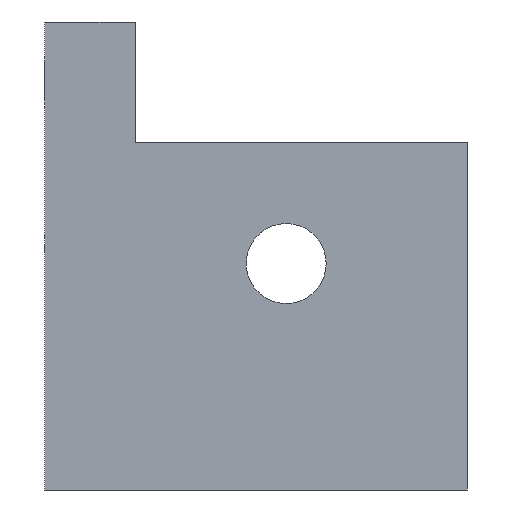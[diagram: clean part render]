
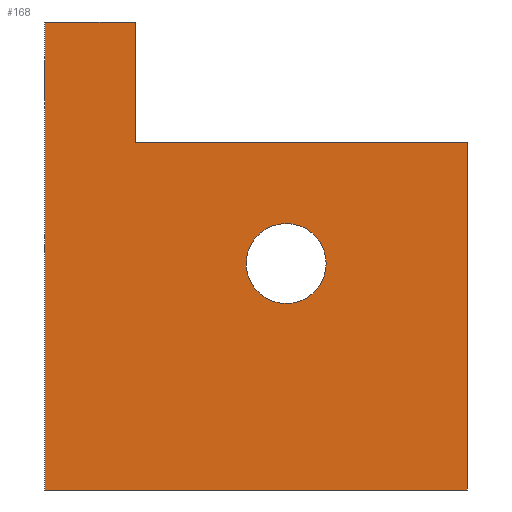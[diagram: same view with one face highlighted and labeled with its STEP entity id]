
A CAD part, front view. The second image highlights one B-rep face of the part: STEP entity #168.
In plain terms, the highlighted planar face has unit normal (0, -1, 0).
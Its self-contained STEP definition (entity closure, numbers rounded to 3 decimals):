
#21 = EDGE_CURVE('',#22,#24,#26,.T.);
#22 = VERTEX_POINT('',#23);
#23 = CARTESIAN_POINT('',(0.,0.,0.));
#24 = VERTEX_POINT('',#25);
#25 = CARTESIAN_POINT('',(0.,0.,31.));
#26 = SURFACE_CURVE('',#27,(#31,#43),.PCURVE_S1.);
#27 = LINE('',#28,#29);
#28 = CARTESIAN_POINT('',(0.,0.,0.));
#29 = VECTOR('',#30,1.);
#30 = DIRECTION('',(0.,0.,1.));
#31 = PCURVE('',#32,#37);
#32 = PLANE('',#33);
#33 = AXIS2_PLACEMENT_3D('',#34,#35,#36);
#34 = CARTESIAN_POINT('',(0.,0.,0.));
#35 = DIRECTION('',(1.,0.,0.));
#36 = DIRECTION('',(0.,0.,1.));
#37 = DEFINITIONAL_REPRESENTATION('',(#38),#42);
#38 = LINE('',#39,#40);
#39 = CARTESIAN_POINT('',(0.,0.));
#40 = VECTOR('',#41,1.);
#41 = DIRECTION('',(1.,0.));
#42 = ( GEOMETRIC_REPRESENTATION_CONTEXT(2) 
PARAMETRIC_REPRESENTATION_CONTEXT() REPRESENTATION_CONTEXT('2D SPACE',''
  ) );
#43 = PCURVE('',#44,#49);
#44 = PLANE('',#45);
#45 = AXIS2_PLACEMENT_3D('',#46,#47,#48);
#46 = CARTESIAN_POINT('',(0.,0.,0.));
#47 = DIRECTION('',(0.,1.,0.));
#48 = DIRECTION('',(0.,0.,1.));
#49 = DEFINITIONAL_REPRESENTATION('',(#50),#54);
#50 = LINE('',#51,#52);
#51 = CARTESIAN_POINT('',(0.,0.));
#52 = VECTOR('',#53,1.);
#53 = DIRECTION('',(1.,0.));
#54 = ( GEOMETRIC_REPRESENTATION_CONTEXT(2) 
PARAMETRIC_REPRESENTATION_CONTEXT() REPRESENTATION_CONTEXT('2D SPACE',''
  ) );
#72 = PLANE('',#73);
#73 = AXIS2_PLACEMENT_3D('',#74,#75,#76);
#74 = CARTESIAN_POINT('',(0.,0.,0.));
#75 = DIRECTION('',(0.,0.,1.));
#76 = DIRECTION('',(1.,0.,0.));
#126 = PLANE('',#127);
#127 = AXIS2_PLACEMENT_3D('',#128,#129,#130);
#128 = CARTESIAN_POINT('',(0.,0.,31.));
#129 = DIRECTION('',(0.,0.,1.));
#130 = DIRECTION('',(1.,0.,0.));
#168 = ADVANCED_FACE('',(#169,#300),#44,.F.);
#169 = FACE_BOUND('',#170,.F.);
#170 = EDGE_LOOP('',(#171,#194,#195,#218,#246,#274));
#171 = ORIENTED_EDGE('',*,*,#172,.F.);
#172 = EDGE_CURVE('',#22,#173,#175,.T.);
#173 = VERTEX_POINT('',#174);
#174 = CARTESIAN_POINT('',(28.,0.,0.));
#175 = SURFACE_CURVE('',#176,(#180,#187),.PCURVE_S1.);
#176 = LINE('',#177,#178);
#177 = CARTESIAN_POINT('',(0.,0.,0.));
#178 = VECTOR('',#179,1.);
#179 = DIRECTION('',(1.,0.,0.));
#180 = PCURVE('',#44,#181);
#181 = DEFINITIONAL_REPRESENTATION('',(#182),#186);
#182 = LINE('',#183,#184);
#183 = CARTESIAN_POINT('',(0.,0.));
#184 = VECTOR('',#185,1.);
#185 = DIRECTION('',(0.,1.));
#186 = ( GEOMETRIC_REPRESENTATION_CONTEXT(2) 
PARAMETRIC_REPRESENTATION_CONTEXT() REPRESENTATION_CONTEXT('2D SPACE',''
  ) );
#187 = PCURVE('',#72,#188);
#188 = DEFINITIONAL_REPRESENTATION('',(#189),#193);
#189 = LINE('',#190,#191);
#190 = CARTESIAN_POINT('',(0.,0.));
#191 = VECTOR('',#192,1.);
#192 = DIRECTION('',(1.,0.));
#193 = ( GEOMETRIC_REPRESENTATION_CONTEXT(2) 
PARAMETRIC_REPRESENTATION_CONTEXT() REPRESENTATION_CONTEXT('2D SPACE',''
  ) );
#194 = ORIENTED_EDGE('',*,*,#21,.T.);
#195 = ORIENTED_EDGE('',*,*,#196,.T.);
#196 = EDGE_CURVE('',#24,#197,#199,.T.);
#197 = VERTEX_POINT('',#198);
#198 = CARTESIAN_POINT('',(6.,0.,31.));
#199 = SURFACE_CURVE('',#200,(#204,#211),.PCURVE_S1.);
#200 = LINE('',#201,#202);
#201 = CARTESIAN_POINT('',(0.,0.,31.));
#202 = VECTOR('',#203,1.);
#203 = DIRECTION('',(1.,0.,0.));
#204 = PCURVE('',#44,#205);
#205 = DEFINITIONAL_REPRESENTATION('',(#206),#210);
#206 = LINE('',#207,#208);
#207 = CARTESIAN_POINT('',(31.,0.));
#208 = VECTOR('',#209,1.);
#209 = DIRECTION('',(0.,1.));
#210 = ( GEOMETRIC_REPRESENTATION_CONTEXT(2) 
PARAMETRIC_REPRESENTATION_CONTEXT() REPRESENTATION_CONTEXT('2D SPACE',''
  ) );
#211 = PCURVE('',#126,#212);
#212 = DEFINITIONAL_REPRESENTATION('',(#213),#217);
#213 = LINE('',#214,#215);
#214 = CARTESIAN_POINT('',(0.,0.));
#215 = VECTOR('',#216,1.);
#216 = DIRECTION('',(1.,0.));
#217 = ( GEOMETRIC_REPRESENTATION_CONTEXT(2) 
PARAMETRIC_REPRESENTATION_CONTEXT() REPRESENTATION_CONTEXT('2D SPACE',''
  ) );
#218 = ORIENTED_EDGE('',*,*,#219,.F.);
#219 = EDGE_CURVE('',#220,#197,#222,.T.);
#220 = VERTEX_POINT('',#221);
#221 = CARTESIAN_POINT('',(6.,0.,23.));
#222 = SURFACE_CURVE('',#223,(#227,#234),.PCURVE_S1.);
#223 = LINE('',#224,#225);
#224 = CARTESIAN_POINT('',(6.,0.,0.));
#225 = VECTOR('',#226,1.);
#226 = DIRECTION('',(0.,0.,1.));
#227 = PCURVE('',#44,#228);
#228 = DEFINITIONAL_REPRESENTATION('',(#229),#233);
#229 = LINE('',#230,#231);
#230 = CARTESIAN_POINT('',(0.,6.));
#231 = VECTOR('',#232,1.);
#232 = DIRECTION('',(1.,0.));
#233 = ( GEOMETRIC_REPRESENTATION_CONTEXT(2) 
PARAMETRIC_REPRESENTATION_CONTEXT() REPRESENTATION_CONTEXT('2D SPACE',''
  ) );
#234 = PCURVE('',#235,#240);
#235 = PLANE('',#236);
#236 = AXIS2_PLACEMENT_3D('',#237,#238,#239);
#237 = CARTESIAN_POINT('',(6.,3.,-1.));
#238 = DIRECTION('',(1.,0.,0.));
#239 = DIRECTION('',(0.,0.,1.));
#240 = DEFINITIONAL_REPRESENTATION('',(#241),#245);
#241 = LINE('',#242,#243);
#242 = CARTESIAN_POINT('',(1.,3.));
#243 = VECTOR('',#244,1.);
#244 = DIRECTION('',(1.,0.));
#245 = ( GEOMETRIC_REPRESENTATION_CONTEXT(2) 
PARAMETRIC_REPRESENTATION_CONTEXT() REPRESENTATION_CONTEXT('2D SPACE',''
  ) );
#246 = ORIENTED_EDGE('',*,*,#247,.T.);
#247 = EDGE_CURVE('',#220,#248,#250,.T.);
#248 = VERTEX_POINT('',#249);
#249 = CARTESIAN_POINT('',(28.,0.,23.));
#250 = SURFACE_CURVE('',#251,(#255,#262),.PCURVE_S1.);
#251 = LINE('',#252,#253);
#252 = CARTESIAN_POINT('',(0.,0.,23.));
#253 = VECTOR('',#254,1.);
#254 = DIRECTION('',(1.,0.,0.));
#255 = PCURVE('',#44,#256);
#256 = DEFINITIONAL_REPRESENTATION('',(#257),#261);
#257 = LINE('',#258,#259);
#258 = CARTESIAN_POINT('',(23.,0.));
#259 = VECTOR('',#260,1.);
#260 = DIRECTION('',(0.,1.));
#261 = ( GEOMETRIC_REPRESENTATION_CONTEXT(2) 
PARAMETRIC_REPRESENTATION_CONTEXT() REPRESENTATION_CONTEXT('2D SPACE',''
  ) );
#262 = PCURVE('',#263,#268);
#263 = PLANE('',#264);
#264 = AXIS2_PLACEMENT_3D('',#265,#266,#267);
#265 = CARTESIAN_POINT('',(0.,0.,23.));
#266 = DIRECTION('',(0.,0.,1.));
#267 = DIRECTION('',(1.,0.,0.));
#268 = DEFINITIONAL_REPRESENTATION('',(#269),#273);
#269 = LINE('',#270,#271);
#270 = CARTESIAN_POINT('',(0.,0.));
#271 = VECTOR('',#272,1.);
#272 = DIRECTION('',(1.,0.));
#273 = ( GEOMETRIC_REPRESENTATION_CONTEXT(2) 
PARAMETRIC_REPRESENTATION_CONTEXT() REPRESENTATION_CONTEXT('2D SPACE',''
  ) );
#274 = ORIENTED_EDGE('',*,*,#275,.F.);
#275 = EDGE_CURVE('',#173,#248,#276,.T.);
#276 = SURFACE_CURVE('',#277,(#281,#288),.PCURVE_S1.);
#277 = LINE('',#278,#279);
#278 = CARTESIAN_POINT('',(28.,0.,0.));
#279 = VECTOR('',#280,1.);
#280 = DIRECTION('',(0.,0.,1.));
#281 = PCURVE('',#44,#282);
#282 = DEFINITIONAL_REPRESENTATION('',(#283),#287);
#283 = LINE('',#284,#285);
#284 = CARTESIAN_POINT('',(0.,28.));
#285 = VECTOR('',#286,1.);
#286 = DIRECTION('',(1.,0.));
#287 = ( GEOMETRIC_REPRESENTATION_CONTEXT(2) 
PARAMETRIC_REPRESENTATION_CONTEXT() REPRESENTATION_CONTEXT('2D SPACE',''
  ) );
#288 = PCURVE('',#289,#294);
#289 = PLANE('',#290);
#290 = AXIS2_PLACEMENT_3D('',#291,#292,#293);
#291 = CARTESIAN_POINT('',(28.,0.,0.));
#292 = DIRECTION('',(1.,0.,0.));
#293 = DIRECTION('',(0.,0.,1.));
#294 = DEFINITIONAL_REPRESENTATION('',(#295),#299);
#295 = LINE('',#296,#297);
#296 = CARTESIAN_POINT('',(0.,0.));
#297 = VECTOR('',#298,1.);
#298 = DIRECTION('',(1.,0.));
#299 = ( GEOMETRIC_REPRESENTATION_CONTEXT(2) 
PARAMETRIC_REPRESENTATION_CONTEXT() REPRESENTATION_CONTEXT('2D SPACE',''
  ) );
#300 = FACE_BOUND('',#301,.F.);
#301 = EDGE_LOOP('',(#302));
#302 = ORIENTED_EDGE('',*,*,#303,.F.);
#303 = EDGE_CURVE('',#304,#304,#306,.T.);
#304 = VERTEX_POINT('',#305);
#305 = CARTESIAN_POINT('',(16.,0.,17.65));
#306 = SURFACE_CURVE('',#307,(#312,#319),.PCURVE_S1.);
#307 = CIRCLE('',#308,2.65);
#308 = AXIS2_PLACEMENT_3D('',#309,#310,#311);
#309 = CARTESIAN_POINT('',(16.,0.,15.));
#310 = DIRECTION('',(0.,1.,0.));
#311 = DIRECTION('',(0.,-0.,1.));
#312 = PCURVE('',#44,#313);
#313 = DEFINITIONAL_REPRESENTATION('',(#314),#318);
#314 = CIRCLE('',#315,2.65);
#315 = AXIS2_PLACEMENT_2D('',#316,#317);
#316 = CARTESIAN_POINT('',(15.,16.));
#317 = DIRECTION('',(1.,0.));
#318 = ( GEOMETRIC_REPRESENTATION_CONTEXT(2) 
PARAMETRIC_REPRESENTATION_CONTEXT() REPRESENTATION_CONTEXT('2D SPACE',''
  ) );
#319 = PCURVE('',#320,#325);
#320 = CYLINDRICAL_SURFACE('',#321,2.65);
#321 = AXIS2_PLACEMENT_3D('',#322,#323,#324);
#322 = CARTESIAN_POINT('',(16.,-498.,15.));
#323 = DIRECTION('',(0.,1.,0.));
#324 = DIRECTION('',(0.,-0.,1.));
#325 = DEFINITIONAL_REPRESENTATION('',(#326),#330);
#326 = LINE('',#327,#328);
#327 = CARTESIAN_POINT('',(0.,498.));
#328 = VECTOR('',#329,1.);
#329 = DIRECTION('',(1.,0.));
#330 = ( GEOMETRIC_REPRESENTATION_CONTEXT(2) 
PARAMETRIC_REPRESENTATION_CONTEXT() REPRESENTATION_CONTEXT('2D SPACE',''
  ) );
